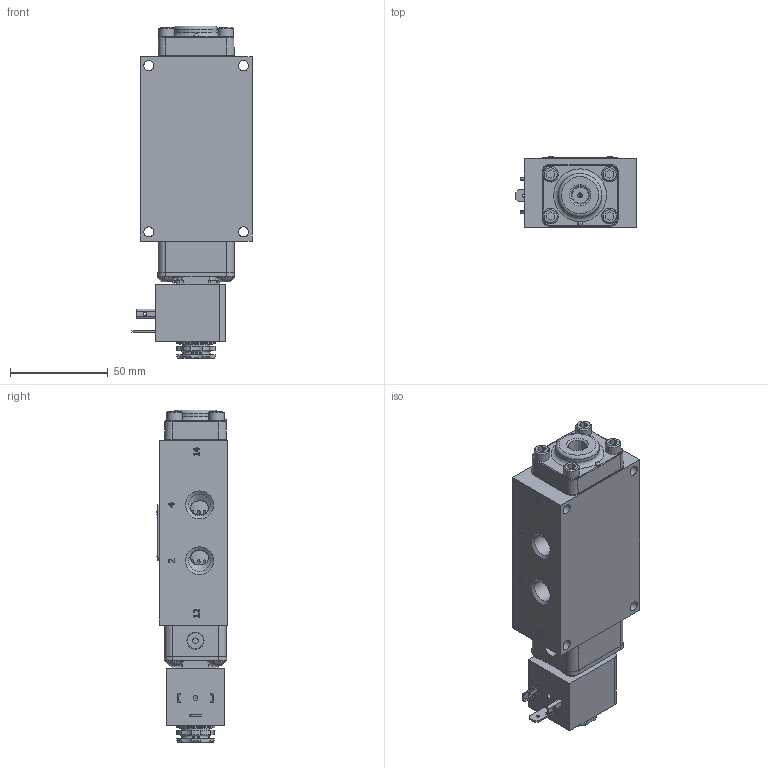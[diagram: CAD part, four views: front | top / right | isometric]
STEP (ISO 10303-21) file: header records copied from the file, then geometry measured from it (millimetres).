
FILE_DESCRIPTION(/* description */ (''),/* implementation_level */ '2;1');
FILE_NAME(/* name */ 'ESR2HCZ.stp',/* time_stamp */ '2026-09-21T10:02:40-04:00',/* author */ ('rmckenna'),/* organization */ (''),/* preprocessor_version */ 'ST-DEVELOPER v20.2',/* originating_system */ 'Autodesk Inventor 2027',/* authorisation */ '');
FILE_SCHEMA (('AUTOMOTIVE_DESIGN { 1 0 10303 214 3 1 1 }'));
Products named in the file (1): Part19
Bounding box: 61.36 x 36.27 x 169.67 mm (x, y, z)
Volume: 223514.7 mm3; surface area: 69397.9 mm2
Topology: 1 solids, 29 shells, 1674 faces, 4168 edges, 2666 vertices
Faces by surface type: plane 747, cylinder 416, cone 270, torus 119, bspline 115, sphere 7
Full cylindrical faces by diameter (mm): 1.016 x1, 1.168 x10, 1.3 x1, 1.397 x1, 1.5 x1, 1.651 x2, 2.032 x8, 2.07 x2, 2.261 x2, 2.35 x4, 2.362 x2, 2.381 x2, 2.5 x1, 2.778 x2, 2.8 x1, 2.819 x1, 3 x4, 3.048 x2, 3.175 x1, 3.4 x1, 3.683 x11, 3.912 x3, 4.191 x2, 4.394 x1, 4.826 x8, 4.953 x1, 5.15 x4, 5.156 x12, 5.5 x1, 6.553 x1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
Entity records: 56493 total; most frequent: CARTESIAN_POINT 15054, ORIENTED_EDGE 8292, DIRECTION 8082, EDGE_CURVE 4146, AXIS2_PLACEMENT_3D 2988, VERTEX_POINT 2664, LINE 2106, VECTOR 2106
